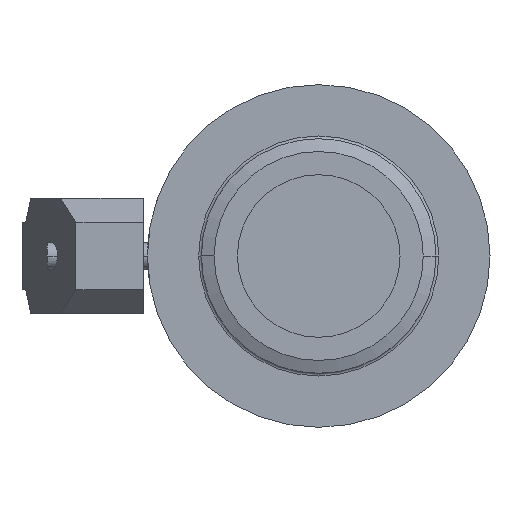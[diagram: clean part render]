
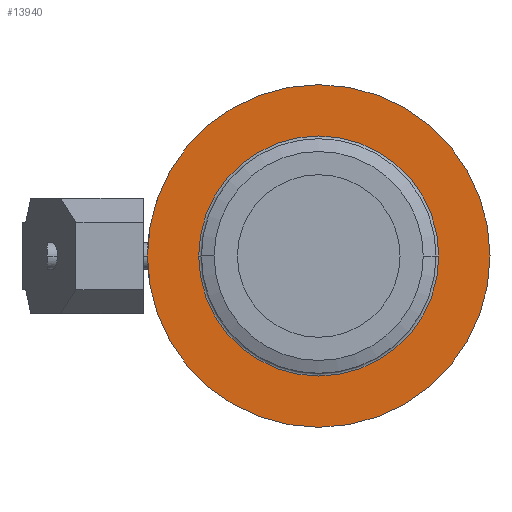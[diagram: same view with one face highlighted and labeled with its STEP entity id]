
A CAD part, left-side view. The second image highlights one B-rep face of the part: STEP entity #13940.
In plain terms, the highlighted planar face has unit normal (-1, 0, 0).
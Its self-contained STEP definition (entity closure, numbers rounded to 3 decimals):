
#13460=CARTESIAN_POINT('',(-123.007,16.5,0.));
#13470=VERTEX_POINT('',#13460);
#13500=CARTESIAN_POINT('',(-123.007,-47.,0.));
#13510=DIRECTION('',(-1.,0.,0.));
#13520=DIRECTION('',(0.,1.,0.));
#13530=AXIS2_PLACEMENT_3D('',#13500,#13510,#13520);
#13540=CIRCLE('',#13530,63.5);
#13550=CARTESIAN_POINT('',(-123.007,-110.5,0.
));
#13560=VERTEX_POINT('',#13550);
#13570=EDGE_CURVE('',#13470,#13560,#13540,.T.);
#13690=CARTESIAN_POINT('',(-123.007,0.35,0.));
#13700=DIRECTION('',(1.,0.,0.));
#13710=DIRECTION('',(0.,1.,0.));
#13720=AXIS2_PLACEMENT_3D('',#13690,#13700,#13710);
#13730=PLANE('',#13720);
#13740=ORIENTED_EDGE('',*,*,#13570,.T.);
#13750=EDGE_CURVE('',#13560,#13470,#13540,.T.);
#13760=ORIENTED_EDGE('',*,*,#13750,.T.);
#13770=EDGE_LOOP('',(#13760,#13740));
#13780=FACE_OUTER_BOUND('',#13770,.T.);
#13790=CARTESIAN_POINT('',(-123.007,-47.,0.));
#13800=DIRECTION('',(-1.,0.,0.));
#13810=DIRECTION('',(0.,1.,0.));
#13820=AXIS2_PLACEMENT_3D('',#13790,#13800,#13810);
#13830=CIRCLE('',#13820,44.5);
#13840=CARTESIAN_POINT('',(-123.007,-2.5,0.));
#13850=VERTEX_POINT('',#13840);
#13860=CARTESIAN_POINT('',(-123.007,-91.5,0.));
#13870=VERTEX_POINT('',#13860);
#13880=EDGE_CURVE('',#13850,#13870,#13830,.T.);
#13890=ORIENTED_EDGE('',*,*,#13880,.F.);
#13900=EDGE_CURVE('',#13870,#13850,#13830,.T.);
#13910=ORIENTED_EDGE('',*,*,#13900,.F.);
#13920=EDGE_LOOP('',(#13910,#13890));
#13930=FACE_BOUND('',#13920,.T.);
#13940=ADVANCED_FACE('',(#13780,#13930),#13730,.F.);
